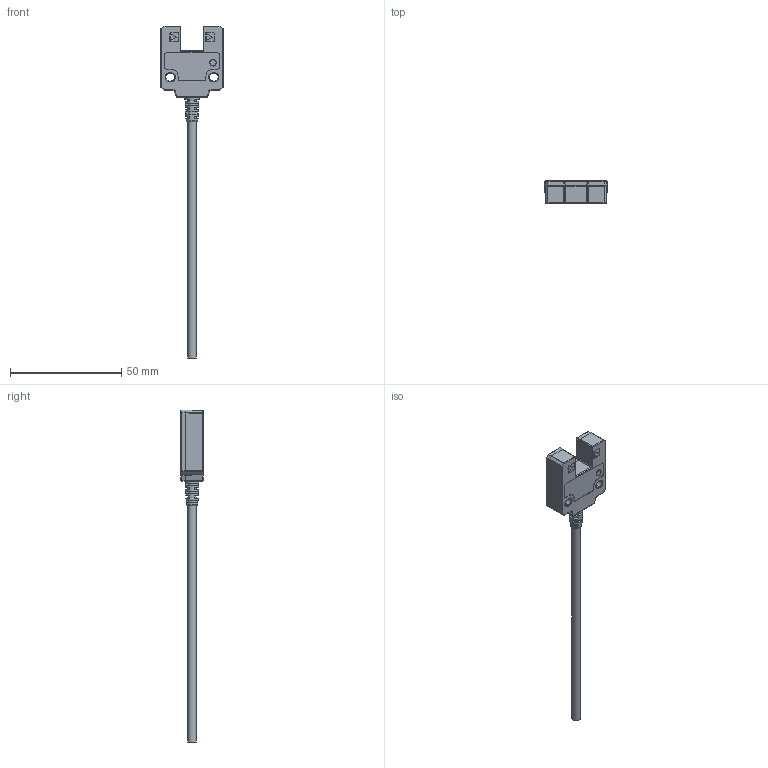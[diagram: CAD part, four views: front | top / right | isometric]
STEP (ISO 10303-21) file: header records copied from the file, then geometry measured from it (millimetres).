
FILE_DESCRIPTION(/* description */ (''),/* implementation_level */ '2;1');
FILE_NAME(/* name */ 'F:\HUAYIFENG\01)HUAYIFENG_宣传文件\01)HUAYIFENG_\X2\5BA34F2065874EF6\X0\_产品资料整合\03)产品3D文档\03)产品3D_槽型系列_K12_2019\03-05)LU1015系列_3D\LU_10_K2_3D.stp',/* time_stamp */ '2020-08-12T20:02:35+08:00',/* author */ ('fengjiarun'),/* organization */ (''),/* preprocessor_version */ 'ST-DEVELOPER v16.5',/* originating_system */ 'Autodesk Inventor 2017',/* authorisation */ '');
FILE_SCHEMA (('AUTOMOTIVE_DESIGN { 1 0 10303 214 3 1 1 }'));
Length unit declared in the file: millimetre
Products named in the file (1): 零件90
Bounding box: 27.9 x 10 x 149.08 mm (x, y, z)
Volume: 4335.4 mm3; surface area: 7595.6 mm2
Topology: 2 solids, 3 shells, 486 faces, 1228 edges, 755 vertices
Faces by surface type: plane 306, cylinder 129, sphere 28, torus 10, bspline 8, cone 5
Full cylindrical faces by diameter (mm): 1.4 x2, 3 x2, 4 x1, 6.8 x2
Entity records: 14391 total; most frequent: CARTESIAN_POINT 2604, DIRECTION 2430, ORIENTED_EDGE 2412, EDGE_CURVE 1206, LINE 898, VECTOR 898, AXIS2_PLACEMENT_3D 766, VERTEX_POINT 744
